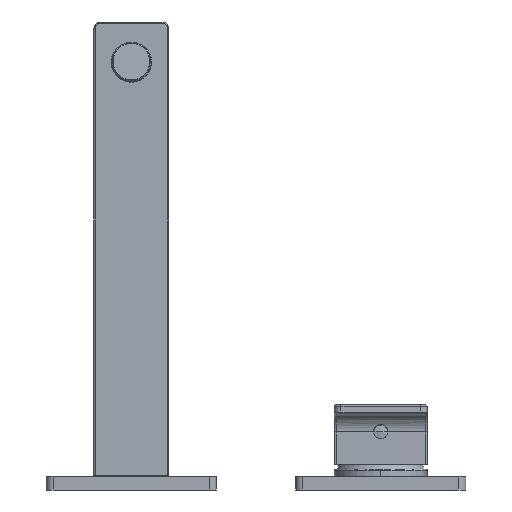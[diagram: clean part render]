
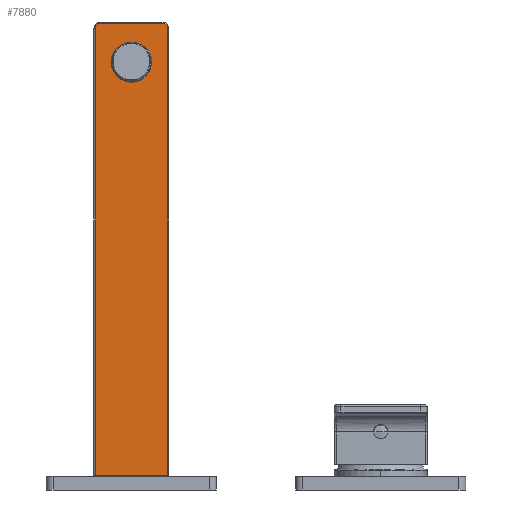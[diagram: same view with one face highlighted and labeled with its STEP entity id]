
A CAD part, front view. The second image highlights one B-rep face of the part: STEP entity #7880.
In plain terms, the highlighted planar face has unit normal (0, -1, 0).
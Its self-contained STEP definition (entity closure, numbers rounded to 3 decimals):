
#7272=CARTESIAN_POINT('',(36.,13.,232.3));
#7273=VERTEX_POINT('',#7272);
#7274=CARTESIAN_POINT('',(36.,13.0,35.3));
#7275=VERTEX_POINT('',#7274);
#7276=CARTESIAN_POINT('',(36.,13.,232.3));
#7277=DIRECTION('',(0.,0.,-1.));
#7278=VECTOR('',#7277,197.);
#7279=LINE('',#7276,#7278);
#7280=EDGE_CURVE('',#7273,#7275,#7279,.T.);
#7339=CARTESIAN_POINT('',(33.5,13.0,234.8));
#7340=VERTEX_POINT('',#7339);
#7348=CARTESIAN_POINT('',(33.5,12.998,232.3));
#7349=DIRECTION('',(0.001,-1.,0.001));
#7350=DIRECTION('',(1.,0.001,0.));
#7351=AXIS2_PLACEMENT_3D('',#7348,#7349,#7350);
#7352=CIRCLE('',#7351,2.5);
#7353=EDGE_CURVE('',#7273,#7340,#7352,.T.);
#7651=CARTESIAN_POINT('',(6.5,13.,234.8));
#7652=VERTEX_POINT('',#7651);
#7653=CARTESIAN_POINT('',(4.,13.0,232.3));
#7654=VERTEX_POINT('',#7653);
#7655=CARTESIAN_POINT('',(6.5,12.998,232.3));
#7656=DIRECTION('',(-0.001,-1.,0.001));
#7657=DIRECTION('',(0.,0.001,1.));
#7658=AXIS2_PLACEMENT_3D('',#7655,#7656,#7657);
#7659=CIRCLE('',#7658,2.5);
#7660=EDGE_CURVE('',#7652,#7654,#7659,.T.);
#7689=CARTESIAN_POINT('',(4.,13.,35.3));
#7690=VERTEX_POINT('',#7689);
#7700=CARTESIAN_POINT('',(4.,13.,35.3));
#7701=DIRECTION('',(0.,0.,1.));
#7702=VECTOR('',#7701,197.);
#7703=LINE('',#7700,#7702);
#7704=EDGE_CURVE('',#7690,#7654,#7703,.T.);
#7758=CARTESIAN_POINT('',(4.,13.,35.3));
#7759=DIRECTION('',(1.0,0.,0.0));
#7760=VECTOR('',#7759,32.);
#7761=LINE('',#7758,#7760);
#7762=EDGE_CURVE('',#7690,#7275,#7761,.T.);
#7801=CARTESIAN_POINT('',(39.802,13.0,15.299));
#7802=DIRECTION('',(0.0,-1.0,0.0));
#7803=DIRECTION('',(0.0,0.0,1.0));
#7804=AXIS2_PLACEMENT_3D('',#7801,#7802,#7803);
#7805=PLANE('',#7804);
#7806=CARTESIAN_POINT('',(6.5,13.,234.8));
#7807=DIRECTION('',(1.,0.,0.));
#7808=VECTOR('',#7807,27.);
#7809=LINE('',#7806,#7808);
#7810=EDGE_CURVE('',#7652,#7340,#7809,.T.);
#7811=ORIENTED_EDGE('',*,*,#7810,.F.);
#7812=ORIENTED_EDGE('',*,*,#7660,.T.);
#7813=ORIENTED_EDGE('',*,*,#7704,.F.);
#7814=ORIENTED_EDGE('',*,*,#7762,.T.);
#7815=ORIENTED_EDGE('',*,*,#7280,.F.);
#7816=ORIENTED_EDGE('',*,*,#7353,.T.);
#7817=EDGE_LOOP('',(#7811,#7812,#7813,#7814,#7815,#7816));
#7818=FACE_OUTER_BOUND('',#7817,.T.);
#7819=CARTESIAN_POINT('',(11.109,13.0,217.941));
#7820=VERTEX_POINT('',#7819);
#7821=CARTESIAN_POINT('',(17.744,13.0,226.054));
#7822=VERTEX_POINT('',#7821);
#7823=CARTESIAN_POINT('',(11.109,13.0,217.941));
#7824=CARTESIAN_POINT('',(11.121,13.0,218.387));
#7825=CARTESIAN_POINT('',(11.213,13.0,219.272));
#7826=CARTESIAN_POINT('',(11.586,13.0,220.637));
#7827=CARTESIAN_POINT('',(12.164,13.0,221.875));
#7828=CARTESIAN_POINT('',(12.863,13.0,222.924));
#7829=CARTESIAN_POINT('',(13.742,13.0,223.905));
#7830=CARTESIAN_POINT('',(14.88,13.0,224.826));
#7831=CARTESIAN_POINT('',(16.229,13.,225.576));
#7832=CARTESIAN_POINT('',(17.22,13.,225.922));
#7833=CARTESIAN_POINT('',(17.744,13.,226.054));
#7834=B_SPLINE_CURVE_WITH_KNOTS('',3,(#7823,#7824,#7825,#7826,#7827,#7828,#7829,#7830,#7831,#7832,#7833),.UNSPECIFIED.,.F.,.U.,(4,1,1,1,1,1,1,1,4),(0.0,0.125,0.25,0.375,0.5,0.625,0.75,0.875,1.0),.UNSPECIFIED.);
#7835=EDGE_CURVE('',#7820,#7822,#7834,.T.);
#7836=ORIENTED_EDGE('',*,*,#7835,.T.);
#7837=CARTESIAN_POINT('',(22.308,13.0,226.054));
#7838=VERTEX_POINT('',#7837);
#7839=CARTESIAN_POINT('',(17.744,13.0,226.054));
#7840=CARTESIAN_POINT('',(19.266,13.0,226.438));
#7841=CARTESIAN_POINT('',(20.787,13.0,226.438));
#7842=CARTESIAN_POINT('',(22.308,13.0,226.054));
#7843=QUASI_UNIFORM_CURVE('',3,(#7839,#7840,#7841,#7842),.UNSPECIFIED.,.F.,.U.);
#7844=EDGE_CURVE('',#7822,#7838,#7843,.T.);
#7845=ORIENTED_EDGE('',*,*,#7844,.T.);
#7846=CARTESIAN_POINT('',(28.943,13.0,217.941));
#7847=VERTEX_POINT('',#7846);
#7848=CARTESIAN_POINT('',(22.308,13.,226.054));
#7849=CARTESIAN_POINT('',(22.833,13.,225.922));
#7850=CARTESIAN_POINT('',(23.826,13.,225.575));
#7851=CARTESIAN_POINT('',(25.176,13.0,224.823));
#7852=CARTESIAN_POINT('',(26.313,13.0,223.902));
#7853=CARTESIAN_POINT('',(27.191,13.0,222.922));
#7854=CARTESIAN_POINT('',(27.888,13.0,221.874));
#7855=CARTESIAN_POINT('',(28.466,13.0,220.635));
#7856=CARTESIAN_POINT('',(28.84,13.0,219.27));
#7857=CARTESIAN_POINT('',(28.931,13.0,218.386));
#7858=CARTESIAN_POINT('',(28.943,13.0,217.941));
#7859=B_SPLINE_CURVE_WITH_KNOTS('',3,(#7848,#7849,#7850,#7851,#7852,#7853,#7854,#7855,#7856,#7857,#7858),.UNSPECIFIED.,.F.,.U.,(4,1,1,1,1,1,1,1,4),(0.0,0.125,0.25,0.375,0.5,0.625,0.75,0.875,1.0),.UNSPECIFIED.);
#7860=EDGE_CURVE('',#7838,#7847,#7859,.T.);
#7861=ORIENTED_EDGE('',*,*,#7860,.T.);
#7862=CARTESIAN_POINT('',(28.943,13.0,217.941));
#7863=CARTESIAN_POINT('',(28.971,13.0,216.872));
#7864=CARTESIAN_POINT('',(28.642,13.0,214.547));
#7865=CARTESIAN_POINT('',(26.614,13.0,211.262));
#7866=CARTESIAN_POINT('',(23.939,13.0,209.496));
#7867=CARTESIAN_POINT('',(21.66,13.0,208.845));
#7868=CARTESIAN_POINT('',(20.026,13.0,208.7));
#7869=CARTESIAN_POINT('',(18.393,13.0,208.845));
#7870=CARTESIAN_POINT('',(16.113,13.0,209.496));
#7871=CARTESIAN_POINT('',(13.439,13.0,211.262));
#7872=CARTESIAN_POINT('',(11.41,13.0,214.547));
#7873=CARTESIAN_POINT('',(11.081,13.0,216.872));
#7874=CARTESIAN_POINT('',(11.109,13.0,217.941));
#7875=B_SPLINE_CURVE_WITH_KNOTS('',3,(#7862,#7863,#7864,#7865,#7866,#7867,#7868,#7869,#7870,#7871,#7872,#7873,#7874),.UNSPECIFIED.,.F.,.U.,(4,1,1,1,1,1,1,1,1,1,4),(0.0,0.125,0.25,0.375,0.438,0.5,0.563,0.625,0.75,0.875,1.0),.UNSPECIFIED.);
#7876=EDGE_CURVE('',#7847,#7820,#7875,.T.);
#7877=ORIENTED_EDGE('',*,*,#7876,.T.);
#7878=EDGE_LOOP('',(#7836,#7845,#7861,#7877));
#7879=FACE_BOUND('',#7878,.T.);
#7880=ADVANCED_FACE('',(#7818,#7879),#7805,.T.);
